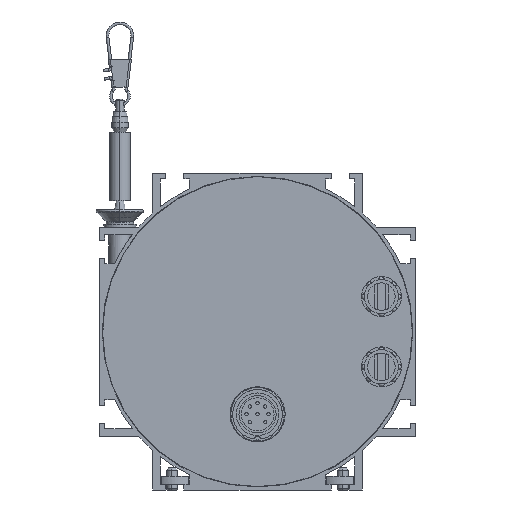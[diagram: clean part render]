
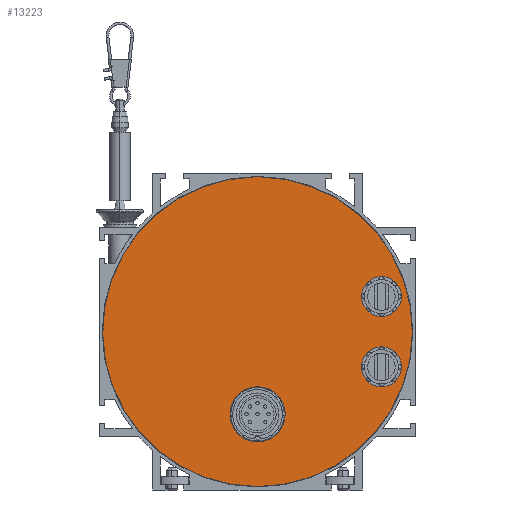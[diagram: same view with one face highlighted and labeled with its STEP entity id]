
A CAD part, left-side view. The second image highlights one B-rep face of the part: STEP entity #13223.
In plain terms, the highlighted planar face has unit normal (-1, 0, 0).
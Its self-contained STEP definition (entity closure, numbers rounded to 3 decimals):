
#3723=CARTESIAN_POINT('',(-153.,0.,0.));
#3724=DIRECTION('',(-1.,0.,0.));
#3725=DIRECTION('',(0.,0.019,1.));
#3726=AXIS2_PLACEMENT_3D('',#3723,#3724,#3725);
#3732=DIRECTION('',(0.,1.,0.));
#3733=VECTOR('',#3732,2.121);
#3734=CARTESIAN_POINT('',(-153.,-1.061,56.24));
#3735=LINE('',#3734,#3733);
#3736=CARTESIAN_POINT('',(-153.,-45.,-12.75));
#3737=DIRECTION('',(1.,0.,0.));
#3738=DIRECTION('',(0.,1.,0.));
#3739=AXIS2_PLACEMENT_3D('',#3736,#3737,#3738);
#3741=CARTESIAN_POINT('',(-153.,-45.,-12.75));
#3742=DIRECTION('',(1.,0.,0.));
#3743=DIRECTION('',(0.,-1.,0.));
#3744=AXIS2_PLACEMENT_3D('',#3741,#3742,#3743);
#3746=CARTESIAN_POINT('',(-153.,-45.,12.75));
#3747=DIRECTION('',(1.,0.,0.));
#3748=DIRECTION('',(0.,1.,0.));
#3749=AXIS2_PLACEMENT_3D('',#3746,#3747,#3748);
#3751=CARTESIAN_POINT('',(-153.,-45.,12.75));
#3752=DIRECTION('',(1.,0.,0.));
#3753=DIRECTION('',(0.,-1.,0.));
#3754=AXIS2_PLACEMENT_3D('',#3751,#3752,#3753);
#3756=CARTESIAN_POINT('',(-153.,0.,-30.));
#3757=DIRECTION('',(-1.,0.,0.));
#3758=DIRECTION('',(0.,1.,0.));
#3759=AXIS2_PLACEMENT_3D('',#3756,#3757,#3758);
#3761=CARTESIAN_POINT('',(-153.,0.,-30.));
#3762=DIRECTION('',(-1.,0.,0.));
#3763=DIRECTION('',(0.,-1.,0.));
#3764=AXIS2_PLACEMENT_3D('',#3761,#3762,#3763);
#7147=CARTESIAN_POINT('',(-153.,1.061,56.24));
#7148=VERTEX_POINT('',#7147);
#7149=CARTESIAN_POINT('',(-153.,-1.061,56.24));
#7150=VERTEX_POINT('',#7149);
#7263=CARTESIAN_POINT('',(-153.,-37.75,-12.75));
#7264=CARTESIAN_POINT('',(-153.,-52.25,-12.75));
#7265=VERTEX_POINT('',#7263);
#7266=VERTEX_POINT('',#7264);
#7478=CARTESIAN_POINT('',(-153.,-37.75,12.75));
#7479=CARTESIAN_POINT('',(-153.,-52.25,12.75));
#7480=VERTEX_POINT('',#7478);
#7481=VERTEX_POINT('',#7479);
#7693=CARTESIAN_POINT('',(-153.,10.,-30.));
#7694=CARTESIAN_POINT('',(-153.,-10.,-30.));
#7695=VERTEX_POINT('',#7693);
#7696=VERTEX_POINT('',#7694);
#13196=CARTESIAN_POINT('',(-153.,0.,0.));
#13197=DIRECTION('',(1.,0.,0.));
#13198=DIRECTION('',(0.,1.,0.));
#13199=AXIS2_PLACEMENT_3D('',#13196,#13197,#13198);
#13200=PLANE('',#13199);
#13201=ORIENTED_EDGE('',*,*,#13176,.F.);
#13202=ORIENTED_EDGE('',*,*,#13190,.F.);
#13203=EDGE_LOOP('',(#13201,#13202));
#13204=FACE_OUTER_BOUND('',#13203,.F.);
#13206=ORIENTED_EDGE('',*,*,#13205,.F.);
#13208=ORIENTED_EDGE('',*,*,#13207,.F.);
#13209=EDGE_LOOP('',(#13206,#13208));
#13210=FACE_BOUND('',#13209,.F.);
#13212=ORIENTED_EDGE('',*,*,#13211,.F.);
#13214=ORIENTED_EDGE('',*,*,#13213,.F.);
#13215=EDGE_LOOP('',(#13212,#13214));
#13216=FACE_BOUND('',#13215,.F.);
#13218=ORIENTED_EDGE('',*,*,#13217,.T.);
#13220=ORIENTED_EDGE('',*,*,#13219,.T.);
#13221=EDGE_LOOP('',(#13218,#13220));
#13222=FACE_BOUND('',#13221,.F.);
#13223=ADVANCED_FACE('',(#13204,#13210,#13216,#13222),#13200,.F.);
#3727=CIRCLE('',#3726,56.25);
#3740=CIRCLE('',#3739,7.25);
#3745=CIRCLE('',#3744,7.25);
#3750=CIRCLE('',#3749,7.25);
#3755=CIRCLE('',#3754,7.25);
#3760=CIRCLE('',#3759,10.);
#3765=CIRCLE('',#3764,10.);
#13176=EDGE_CURVE('',#7148,#7150,#3727,.T.);
#13190=EDGE_CURVE('',#7150,#7148,#3735,.T.);
#13205=EDGE_CURVE('',#7265,#7266,#3740,.T.);
#13207=EDGE_CURVE('',#7266,#7265,#3745,.T.);
#13211=EDGE_CURVE('',#7480,#7481,#3750,.T.);
#13213=EDGE_CURVE('',#7481,#7480,#3755,.T.);
#13217=EDGE_CURVE('',#7695,#7696,#3760,.T.);
#13219=EDGE_CURVE('',#7696,#7695,#3765,.T.);
